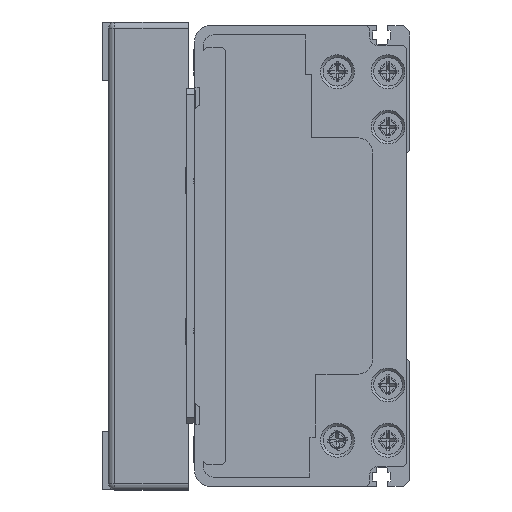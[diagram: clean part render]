
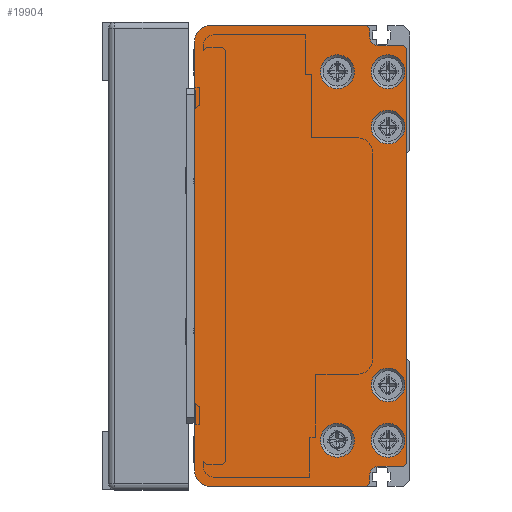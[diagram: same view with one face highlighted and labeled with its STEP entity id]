
A CAD part, left-side view. The second image highlights one B-rep face of the part: STEP entity #19904.
In plain terms, the highlighted planar face has unit normal (-1, 0, 0) as drawn and (0, 0, -1) by its records, which use the part's own axes.
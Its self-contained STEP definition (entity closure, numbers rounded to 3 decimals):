
#934=LINE('',#28802,#2599);
#935=LINE('',#28806,#2600);
#936=LINE('',#28808,#2601);
#937=LINE('',#28810,#2602);
#938=LINE('',#28814,#2603);
#939=LINE('',#28816,#2604);
#940=LINE('',#28818,#2605);
#941=LINE('',#28820,#2606);
#942=LINE('',#28822,#2607);
#943=LINE('',#28826,#2608);
#944=LINE('',#28828,#2609);
#945=LINE('',#28830,#2610);
#2599=VECTOR('',#23391,140.);
#2600=VECTOR('',#23394,51.);
#2601=VECTOR('',#23395,1.414);
#2602=VECTOR('',#23396,2.5);
#2603=VECTOR('',#23399,8.);
#2604=VECTOR('',#23400,1.414);
#2605=VECTOR('',#23401,135.);
#2606=VECTOR('',#23402,1.414);
#2607=VECTOR('',#23403,8.);
#2608=VECTOR('',#23406,2.5);
#2609=VECTOR('',#23407,1.414);
#2610=VECTOR('',#23408,51.);
#4217=PLANE('',#21278);
#4848=FACE_BOUND('',#6704,.T.);
#4849=FACE_BOUND('',#6705,.T.);
#4850=FACE_BOUND('',#6706,.T.);
#4851=FACE_BOUND('',#6707,.T.);
#4852=FACE_BOUND('',#6708,.T.);
#4853=FACE_BOUND('',#6709,.T.);
#5415=FACE_OUTER_BOUND('',#6703,.T.);
#6703=EDGE_LOOP('',(#13983,#13984,#13985,#13986,#13987,#13988,#13989,#13990,
#13991,#13992,#13993,#13994,#13995,#13996,#13997,#13998));
#6704=EDGE_LOOP('',(#13999));
#6705=EDGE_LOOP('',(#14000));
#6706=EDGE_LOOP('',(#14001));
#6707=EDGE_LOOP('',(#14002));
#6708=EDGE_LOOP('',(#14003));
#6709=EDGE_LOOP('',(#14004));
#8221=CIRCLE('',#21279,5.);
#8222=CIRCLE('',#21280,3.);
#8223=CIRCLE('',#21281,3.);
#8224=CIRCLE('',#21282,5.);
#8225=CIRCLE('',#21283,5.5);
#8226=CIRCLE('',#21284,5.5);
#8227=CIRCLE('',#21285,5.5);
#8228=CIRCLE('',#21286,5.5);
#8229=CIRCLE('',#21287,5.5);
#8230=CIRCLE('',#21288,5.5);
#8917=VERTEX_POINT('',#28800);
#8918=VERTEX_POINT('',#28801);
#8919=VERTEX_POINT('',#28803);
#8920=VERTEX_POINT('',#28805);
#8921=VERTEX_POINT('',#28807);
#8922=VERTEX_POINT('',#28809);
#8923=VERTEX_POINT('',#28811);
#8924=VERTEX_POINT('',#28813);
#8925=VERTEX_POINT('',#28815);
#8926=VERTEX_POINT('',#28817);
#8927=VERTEX_POINT('',#28819);
#8928=VERTEX_POINT('',#28821);
#8929=VERTEX_POINT('',#28823);
#8930=VERTEX_POINT('',#28825);
#8931=VERTEX_POINT('',#28827);
#8932=VERTEX_POINT('',#28829);
#8933=VERTEX_POINT('',#28832);
#8934=VERTEX_POINT('',#28834);
#8935=VERTEX_POINT('',#28836);
#8936=VERTEX_POINT('',#28838);
#8937=VERTEX_POINT('',#28840);
#8938=VERTEX_POINT('',#28842);
#10957=EDGE_CURVE('',#8917,#8918,#934,.T.);
#10958=EDGE_CURVE('',#8918,#8919,#8221,.T.);
#10959=EDGE_CURVE('',#8919,#8920,#935,.T.);
#10960=EDGE_CURVE('',#8920,#8921,#936,.T.);
#10961=EDGE_CURVE('',#8921,#8922,#937,.T.);
#10962=EDGE_CURVE('',#8922,#8923,#8222,.T.);
#10963=EDGE_CURVE('',#8923,#8924,#938,.T.);
#10964=EDGE_CURVE('',#8924,#8925,#939,.T.);
#10965=EDGE_CURVE('',#8925,#8926,#940,.T.);
#10966=EDGE_CURVE('',#8926,#8927,#941,.T.);
#10967=EDGE_CURVE('',#8927,#8928,#942,.T.);
#10968=EDGE_CURVE('',#8928,#8929,#8223,.T.);
#10969=EDGE_CURVE('',#8929,#8930,#943,.T.);
#10970=EDGE_CURVE('',#8930,#8931,#944,.T.);
#10971=EDGE_CURVE('',#8931,#8932,#945,.T.);
#10972=EDGE_CURVE('',#8932,#8917,#8224,.T.);
#10973=EDGE_CURVE('',#8933,#8933,#8225,.T.);
#10974=EDGE_CURVE('',#8934,#8934,#8226,.T.);
#10975=EDGE_CURVE('',#8935,#8935,#8227,.T.);
#10976=EDGE_CURVE('',#8936,#8936,#8228,.T.);
#10977=EDGE_CURVE('',#8937,#8937,#8229,.T.);
#10978=EDGE_CURVE('',#8938,#8938,#8230,.T.);
#13983=ORIENTED_EDGE('',*,*,#10957,.T.);
#13984=ORIENTED_EDGE('',*,*,#10958,.T.);
#13985=ORIENTED_EDGE('',*,*,#10959,.T.);
#13986=ORIENTED_EDGE('',*,*,#10960,.T.);
#13987=ORIENTED_EDGE('',*,*,#10961,.T.);
#13988=ORIENTED_EDGE('',*,*,#10962,.T.);
#13989=ORIENTED_EDGE('',*,*,#10963,.T.);
#13990=ORIENTED_EDGE('',*,*,#10964,.T.);
#13991=ORIENTED_EDGE('',*,*,#10965,.T.);
#13992=ORIENTED_EDGE('',*,*,#10966,.T.);
#13993=ORIENTED_EDGE('',*,*,#10967,.T.);
#13994=ORIENTED_EDGE('',*,*,#10968,.T.);
#13995=ORIENTED_EDGE('',*,*,#10969,.T.);
#13996=ORIENTED_EDGE('',*,*,#10970,.T.);
#13997=ORIENTED_EDGE('',*,*,#10971,.T.);
#13998=ORIENTED_EDGE('',*,*,#10972,.T.);
#13999=ORIENTED_EDGE('',*,*,#10973,.T.);
#14000=ORIENTED_EDGE('',*,*,#10974,.T.);
#14001=ORIENTED_EDGE('',*,*,#10975,.T.);
#14002=ORIENTED_EDGE('',*,*,#10976,.T.);
#14003=ORIENTED_EDGE('',*,*,#10977,.T.);
#14004=ORIENTED_EDGE('',*,*,#10978,.T.);
#19904=ADVANCED_FACE('',(#5415,#4848,#4849,#4850,#4851,#4852,#4853),#4217,
 .F.);
#21278=AXIS2_PLACEMENT_3D('',#28799,#23389,#23390);
#21279=AXIS2_PLACEMENT_3D('',#28804,#23392,#23393);
#21280=AXIS2_PLACEMENT_3D('',#28812,#23397,#23398);
#21281=AXIS2_PLACEMENT_3D('',#28824,#23404,#23405);
#21282=AXIS2_PLACEMENT_3D('',#28831,#23409,#23410);
#21283=AXIS2_PLACEMENT_3D('',#28833,#23411,#23412);
#21284=AXIS2_PLACEMENT_3D('',#28835,#23413,#23414);
#21285=AXIS2_PLACEMENT_3D('',#28837,#23415,#23416);
#21286=AXIS2_PLACEMENT_3D('',#28839,#23417,#23418);
#21287=AXIS2_PLACEMENT_3D('',#28841,#23419,#23420);
#21288=AXIS2_PLACEMENT_3D('',#28843,#23421,#23422);
#23389=DIRECTION('center_axis',(0.,0.,
1.));
#23390=DIRECTION('ref_axis',(1.,0.,0.));
#23391=DIRECTION('',(1.,0.,0.));
#23392=DIRECTION('center_axis',(0.,0.,
-1.));
#23393=DIRECTION('ref_axis',(-1.,0.,0.));
#23394=DIRECTION('',(0.,-1.,0.));
#23395=DIRECTION('',(-0.707,-0.707,0.));
#23396=DIRECTION('',(-1.,0.,0.));
#23397=DIRECTION('center_axis',(0.,0.,
1.));
#23398=DIRECTION('ref_axis',(0.,1.,0.));
#23399=DIRECTION('',(0.,-1.,0.));
#23400=DIRECTION('',(-0.707,-0.707,0.));
#23401=DIRECTION('',(-1.,0.,0.));
#23402=DIRECTION('',(-0.707,0.707,0.));
#23403=DIRECTION('',(0.,1.,0.));
#23404=DIRECTION('center_axis',(0.,0.,
1.));
#23405=DIRECTION('ref_axis',(1.,0.,0.));
#23406=DIRECTION('',(-1.,0.,0.));
#23407=DIRECTION('',(-0.707,0.707,0.));
#23408=DIRECTION('',(0.,1.,0.));
#23409=DIRECTION('center_axis',(0.,0.,
-1.));
#23410=DIRECTION('ref_axis',(0.,-1.,0.));
#23411=DIRECTION('center_axis',(0.,0.,
1.));
#23412=DIRECTION('ref_axis',(-1.,0.,0.));
#23413=DIRECTION('center_axis',(0.,0.,
1.));
#23414=DIRECTION('ref_axis',(-1.,0.,0.));
#23415=DIRECTION('center_axis',(0.,0.,
1.));
#23416=DIRECTION('ref_axis',(-1.,0.,0.));
#23417=DIRECTION('center_axis',(0.,0.,
1.));
#23418=DIRECTION('ref_axis',(-1.,0.,0.));
#23419=DIRECTION('center_axis',(0.,0.,
1.));
#23420=DIRECTION('ref_axis',(-1.,0.,0.));
#23421=DIRECTION('center_axis',(0.,0.,
1.));
#23422=DIRECTION('ref_axis',(-1.,0.,0.));
#28799=CARTESIAN_POINT('Origin',(0.25,38.047,-1369.));
#28800=CARTESIAN_POINT('',(-69.75,72.25,-1369.));
#28801=CARTESIAN_POINT('',(70.25,72.25,-1369.));
#28802=CARTESIAN_POINT('',(-69.75,72.25,-1369.));
#28803=CARTESIAN_POINT('',(75.25,67.25,-1369.));
#28804=CARTESIAN_POINT('Origin',(70.25,67.25,-1369.));
#28805=CARTESIAN_POINT('',(75.25,16.25,-1369.));
#28806=CARTESIAN_POINT('',(75.25,67.25,-1369.));
#28807=CARTESIAN_POINT('',(74.25,15.25,-1369.));
#28808=CARTESIAN_POINT('',(75.25,16.25,-1369.));
#28809=CARTESIAN_POINT('',(71.75,15.25,-1369.));
#28810=CARTESIAN_POINT('',(74.25,15.25,-1369.));
#28811=CARTESIAN_POINT('',(68.75,12.25,-1369.));
#28812=CARTESIAN_POINT('Origin',(71.75,12.25,-1369.));
#28813=CARTESIAN_POINT('',(68.75,4.25,-1369.));
#28814=CARTESIAN_POINT('',(68.75,12.25,-1369.));
#28815=CARTESIAN_POINT('',(67.75,3.25,-1369.));
#28816=CARTESIAN_POINT('',(68.75,4.25,-1369.));
#28817=CARTESIAN_POINT('',(-67.25,3.25,-1369.));
#28818=CARTESIAN_POINT('',(67.75,3.25,-1369.));
#28819=CARTESIAN_POINT('',(-68.25,4.25,-1369.));
#28820=CARTESIAN_POINT('',(-67.25,3.25,-1369.));
#28821=CARTESIAN_POINT('',(-68.25,12.25,-1369.));
#28822=CARTESIAN_POINT('',(-68.25,4.25,-1369.));
#28823=CARTESIAN_POINT('',(-71.25,15.25,-1369.));
#28824=CARTESIAN_POINT('Origin',(-71.25,12.25,-1369.));
#28825=CARTESIAN_POINT('',(-73.75,15.25,-1369.));
#28826=CARTESIAN_POINT('',(-71.25,15.25,-1369.));
#28827=CARTESIAN_POINT('',(-74.75,16.25,-1369.));
#28828=CARTESIAN_POINT('',(-73.75,15.25,-1369.));
#28829=CARTESIAN_POINT('',(-74.75,67.25,-1369.));
#28830=CARTESIAN_POINT('',(-74.75,16.25,-1369.));
#28831=CARTESIAN_POINT('Origin',(-69.75,67.25,-1369.));
#28832=CARTESIAN_POINT('',(-47.25,9.25,-1369.));
#28833=CARTESIAN_POINT('Origin',(-41.75,9.25,-1369.));
#28834=CARTESIAN_POINT('',(36.75,9.25,-1369.));
#28835=CARTESIAN_POINT('Origin',(42.25,9.25,-1369.));
#28836=CARTESIAN_POINT('',(-65.25,25.75,-1369.));
#28837=CARTESIAN_POINT('Origin',(-59.75,25.75,-1369.));
#28838=CARTESIAN_POINT('',(54.75,25.75,-1369.));
#28839=CARTESIAN_POINT('Origin',(60.25,25.75,-1369.));
#28840=CARTESIAN_POINT('',(-65.25,9.25,-1369.));
#28841=CARTESIAN_POINT('Origin',(-59.75,9.25,-1369.));
#28842=CARTESIAN_POINT('',(54.75,9.25,-1369.));
#28843=CARTESIAN_POINT('Origin',(60.25,9.25,-1369.));
